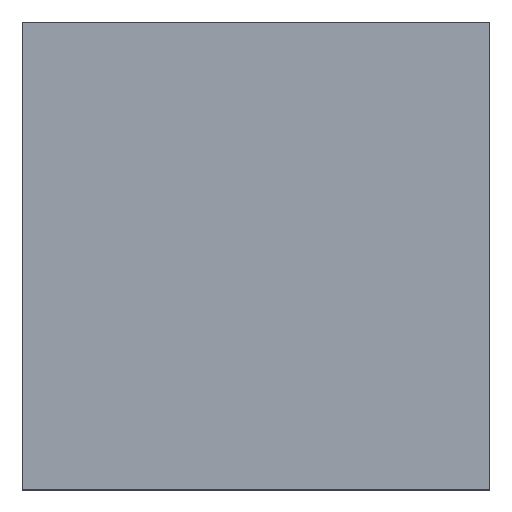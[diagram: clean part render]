
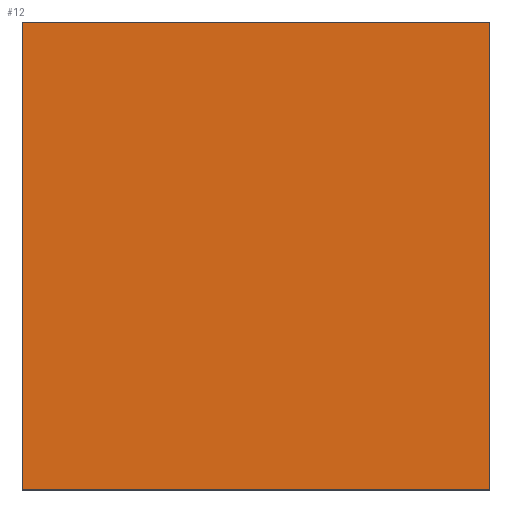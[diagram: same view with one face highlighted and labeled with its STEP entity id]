
A CAD part, top view. The second image highlights one B-rep face of the part: STEP entity #12.
In plain terms, the highlighted planar face has unit normal (0, 0, 1).
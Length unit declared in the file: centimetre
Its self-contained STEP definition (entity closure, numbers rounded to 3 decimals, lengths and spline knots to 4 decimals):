
#7 = VERTEX_POINT ( 'NONE', #401 ) ;
#12 = ADVANCED_FACE ( 'NONE', ( #303 ), #523, .T. ) ;
#34 = ORIENTED_EDGE ( 'NONE', *, *, #370, .T. ) ;
#48 = DIRECTION ( 'NONE',  ( 1., 0., 0. ) ) ;
#63 = CARTESIAN_POINT ( 'NONE',  ( 1000., 0., 1000. ) ) ;
#67 = LINE ( 'NONE', #403, #173 ) ;
#90 = CARTESIAN_POINT ( 'NONE',  ( 0., 1000., 1000. ) ) ;
#97 = DIRECTION ( 'NONE',  ( 0., 1., 0. ) ) ;
#123 = VECTOR ( 'NONE', #97, 100. ) ;
#140 = EDGE_CURVE ( 'NONE', #152, #435, #232, .T. ) ;
#152 = VERTEX_POINT ( 'NONE', #316 ) ;
#159 = CARTESIAN_POINT ( 'NONE',  ( 0., 0., 1000. ) ) ;
#173 = VECTOR ( 'NONE', #484, 100. ) ;
#188 = ORIENTED_EDGE ( 'NONE', *, *, #140, .T. ) ;
#207 = EDGE_CURVE ( 'NONE', #7, #443, #366, .T. ) ;
#227 = EDGE_LOOP ( 'NONE', ( #473, #381, #34, #188 ) ) ;
#232 = LINE ( 'NONE', #90, #302 ) ;
#285 = CARTESIAN_POINT ( 'NONE',  ( 1000., 1000., 1000. ) ) ;
#302 = VECTOR ( 'NONE', #458, 100. ) ;
#303 = FACE_OUTER_BOUND ( 'NONE', #227, .T. ) ;
#306 = DIRECTION ( 'NONE',  ( 0., 0., 1. ) ) ;
#316 = CARTESIAN_POINT ( 'NONE',  ( 1000., 1000., 1000. ) ) ;
#354 = AXIS2_PLACEMENT_3D ( 'NONE', #159, #306, #360 ) ;
#360 = DIRECTION ( 'NONE',  ( 1., 0., 0. ) ) ;
#366 = LINE ( 'NONE', #373, #462 ) ;
#370 = EDGE_CURVE ( 'NONE', #443, #152, #552, .T. ) ;
#373 = CARTESIAN_POINT ( 'NONE',  ( 0., 0., 1000. ) ) ;
#381 = ORIENTED_EDGE ( 'NONE', *, *, #207, .T. ) ;
#401 = CARTESIAN_POINT ( 'NONE',  ( 0., 0., 1000. ) ) ;
#403 = CARTESIAN_POINT ( 'NONE',  ( 0., 1000., 1000. ) ) ;
#429 = EDGE_CURVE ( 'NONE', #435, #7, #67, .T. ) ;
#435 = VERTEX_POINT ( 'NONE', #522 ) ;
#443 = VERTEX_POINT ( 'NONE', #63 ) ;
#458 = DIRECTION ( 'NONE',  ( -1., 0., 0. ) ) ;
#462 = VECTOR ( 'NONE', #48, 100. ) ;
#473 = ORIENTED_EDGE ( 'NONE', *, *, #429, .T. ) ;
#484 = DIRECTION ( 'NONE',  ( 0., -1., 0. ) ) ;
#522 = CARTESIAN_POINT ( 'NONE',  ( 0., 1000., 1000. ) ) ;
#523 = PLANE ( 'NONE',  #354 ) ;
#552 = LINE ( 'NONE', #285, #123 ) ;
